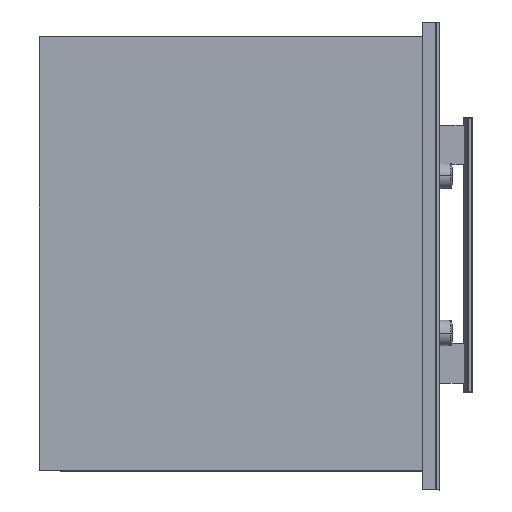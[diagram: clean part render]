
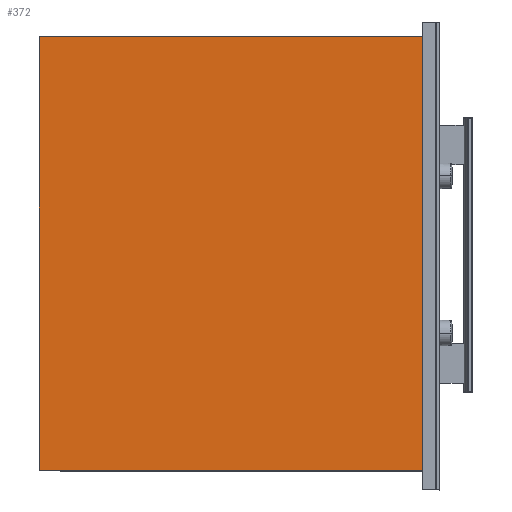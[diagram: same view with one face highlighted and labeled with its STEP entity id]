
A CAD part, top view. The second image highlights one B-rep face of the part: STEP entity #372.
In plain terms, the highlighted free-form (B-spline) face has degree [1, 1] with [2, 2] control points.
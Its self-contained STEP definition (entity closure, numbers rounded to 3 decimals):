
#129=B_SPLINE_CURVE_WITH_KNOTS('',1,(#3510,#3511),.UNSPECIFIED.,.F.,.F.,
(2,2),(0.,1.),.UNSPECIFIED.);
#135=B_SPLINE_CURVE_WITH_KNOTS('',1,(#3522,#3523),.UNSPECIFIED.,.F.,.F.,
(2,2),(0.,1.),.UNSPECIFIED.);
#136=B_SPLINE_CURVE_WITH_KNOTS('',1,(#3524,#3525),.UNSPECIFIED.,.F.,.F.,
(2,2),(0.,1.),.UNSPECIFIED.);
#137=B_SPLINE_CURVE_WITH_KNOTS('',1,(#3526,#3527),.UNSPECIFIED.,.F.,.F.,
(2,2),(0.,1.),.UNSPECIFIED.);
#372=ADVANCED_FACE('',(#485),#1512,.T.);
#485=FACE_OUTER_BOUND('',#604,.T.);
#604=EDGE_LOOP('',(#1034,#1035,#1036,#1037));
#1034=ORIENTED_EDGE('',*,*,#1294,.T.);
#1035=ORIENTED_EDGE('',*,*,#1295,.T.);
#1036=ORIENTED_EDGE('',*,*,#1296,.F.);
#1037=ORIENTED_EDGE('',*,*,#1288,.F.);
#1288=EDGE_CURVE('',#1441,#1442,#129,.T.);
#1294=EDGE_CURVE('',#1441,#1447,#135,.T.);
#1295=EDGE_CURVE('',#1447,#1448,#136,.T.);
#1296=EDGE_CURVE('',#1442,#1448,#137,.T.);
#1441=VERTEX_POINT('',#3612);
#1442=VERTEX_POINT('',#3613);
#1447=VERTEX_POINT('',#3618);
#1448=VERTEX_POINT('',#3619);
#1512=B_SPLINE_SURFACE_WITH_KNOTS('',1,1,((#3566,#3567),(#3568,#3569)),.UNSPECIFIED.,
.F.,.F.,.F.,(2,2),(2,2),(0.,1.),(0.,1.),.UNSPECIFIED.);
#3510=CARTESIAN_POINT('',(0.338,278.959,432.902));
#3511=CARTESIAN_POINT('',(0.338,-273.541,432.902));
#3522=CARTESIAN_POINT('',(0.338,278.959,432.902));
#3523=CARTESIAN_POINT('',(-488.049,278.959,432.902));
#3524=CARTESIAN_POINT('',(-488.049,278.959,432.902));
#3525=CARTESIAN_POINT('',(-488.049,-273.541,432.902));
#3526=CARTESIAN_POINT('',(0.338,-273.541,432.902));
#3527=CARTESIAN_POINT('',(-488.049,-273.541,432.902));
#3566=CARTESIAN_POINT('',(0.338,278.959,432.902));
#3567=CARTESIAN_POINT('',(0.338,-273.541,432.902));
#3568=CARTESIAN_POINT('',(-488.049,278.959,432.902));
#3569=CARTESIAN_POINT('',(-488.049,-273.541,432.902));
#3612=CARTESIAN_POINT('',(0.338,278.959,432.902));
#3613=CARTESIAN_POINT('',(0.338,-273.541,432.902));
#3618=CARTESIAN_POINT('',(-488.049,278.959,432.902));
#3619=CARTESIAN_POINT('',(-488.049,-273.541,432.902));
